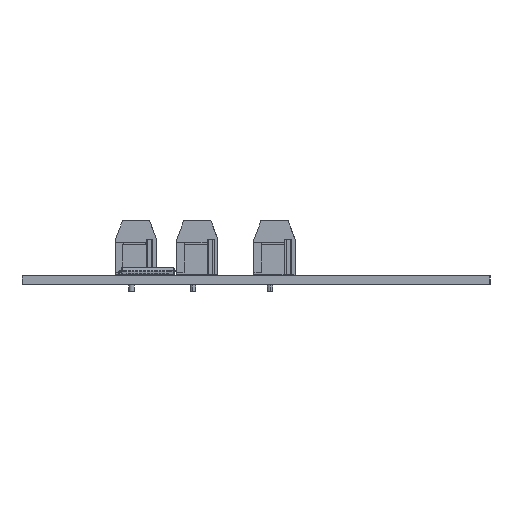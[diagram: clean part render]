
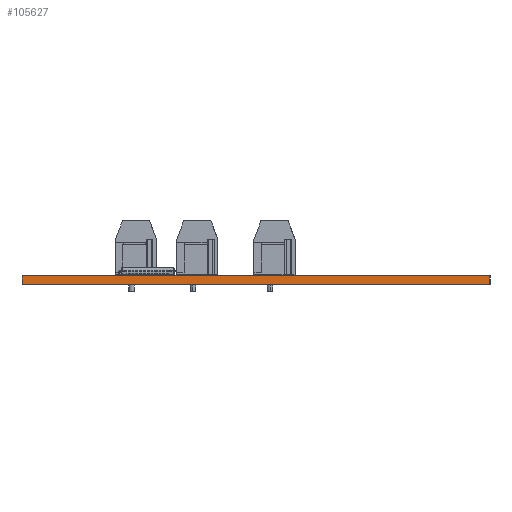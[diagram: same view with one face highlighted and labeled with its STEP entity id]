
A CAD part, left-side view. The second image highlights one B-rep face of the part: STEP entity #105627.
In plain terms, the highlighted planar face has unit normal (-1, 0, 0).
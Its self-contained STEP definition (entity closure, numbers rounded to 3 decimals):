
#104484 = PLANE('',#104485);
#104485 = AXIS2_PLACEMENT_3D('',#104486,#104487,#104488);
#104486 = CARTESIAN_POINT('',(38.1,-152.4,0.));
#104487 = DIRECTION('',(0.,1.,0.));
#104488 = DIRECTION('',(1.,0.,0.));
#104512 = PLANE('',#104513);
#104513 = AXIS2_PLACEMENT_3D('',#104514,#104515,#104516);
#104514 = CARTESIAN_POINT('',(114.3,-109.22,1.6));
#104515 = DIRECTION('',(0.,0.,1.));
#104516 = DIRECTION('',(1.,0.,0.));
#104566 = PLANE('',#104567);
#104567 = AXIS2_PLACEMENT_3D('',#104568,#104569,#104570);
#104568 = CARTESIAN_POINT('',(114.3,-109.22,0.));
#104569 = DIRECTION('',(0.,0.,1.));
#104570 = DIRECTION('',(1.,0.,0.));
#104581 = EDGE_CURVE('',#104582,#104584,#104586,.T.);
#104582 = VERTEX_POINT('',#104583);
#104583 = CARTESIAN_POINT('',(38.1,-152.4,0.));
#104584 = VERTEX_POINT('',#104585);
#104585 = CARTESIAN_POINT('',(38.1,-152.4,1.6));
#104586 = SURFACE_CURVE('',#104587,(#104591,#104598),.PCURVE_S1.);
#104587 = LINE('',#104588,#104589);
#104588 = CARTESIAN_POINT('',(38.1,-152.4,0.));
#104589 = VECTOR('',#104590,1.);
#104590 = DIRECTION('',(0.,0.,1.));
#104591 = PCURVE('',#104484,#104592);
#104592 = DEFINITIONAL_REPRESENTATION('',(#104593),#104597);
#104593 = LINE('',#104594,#104595);
#104594 = CARTESIAN_POINT('',(0.,0.));
#104595 = VECTOR('',#104596,1.);
#104596 = DIRECTION('',(0.,-1.));
#104597 = ( GEOMETRIC_REPRESENTATION_CONTEXT(2) 
PARAMETRIC_REPRESENTATION_CONTEXT() REPRESENTATION_CONTEXT('2D SPACE',''
  ) );
#104598 = PCURVE('',#104599,#104604);
#104599 = PLANE('',#104600);
#104600 = AXIS2_PLACEMENT_3D('',#104601,#104602,#104603);
#104601 = CARTESIAN_POINT('',(38.1,-66.04,0.));
#104602 = DIRECTION('',(1.,0.,0.));
#104603 = DIRECTION('',(0.,-1.,0.));
#104604 = DEFINITIONAL_REPRESENTATION('',(#104605),#104609);
#104605 = LINE('',#104606,#104607);
#104606 = CARTESIAN_POINT('',(86.36,0.));
#104607 = VECTOR('',#104608,1.);
#104608 = DIRECTION('',(0.,-1.));
#104609 = ( GEOMETRIC_REPRESENTATION_CONTEXT(2) 
PARAMETRIC_REPRESENTATION_CONTEXT() REPRESENTATION_CONTEXT('2D SPACE',''
  ) );
#104697 = PLANE('',#104698);
#104698 = AXIS2_PLACEMENT_3D('',#104699,#104700,#104701);
#104699 = CARTESIAN_POINT('',(190.5,-66.04,0.));
#104700 = DIRECTION('',(0.,-1.,0.));
#104701 = DIRECTION('',(-1.,0.,0.));
#104736 = VERTEX_POINT('',#104737);
#104737 = CARTESIAN_POINT('',(38.1,-66.04,0.));
#104758 = EDGE_CURVE('',#104736,#104582,#104759,.T.);
#104759 = SURFACE_CURVE('',#104760,(#104764,#104771),.PCURVE_S1.);
#104760 = LINE('',#104761,#104762);
#104761 = CARTESIAN_POINT('',(38.1,-66.04,0.));
#104762 = VECTOR('',#104763,1.);
#104763 = DIRECTION('',(0.,-1.,0.));
#104764 = PCURVE('',#104566,#104765);
#104765 = DEFINITIONAL_REPRESENTATION('',(#104766),#104770);
#104766 = LINE('',#104767,#104768);
#104767 = CARTESIAN_POINT('',(-76.2,43.18));
#104768 = VECTOR('',#104769,1.);
#104769 = DIRECTION('',(0.,-1.));
#104770 = ( GEOMETRIC_REPRESENTATION_CONTEXT(2) 
PARAMETRIC_REPRESENTATION_CONTEXT() REPRESENTATION_CONTEXT('2D SPACE',''
  ) );
#104771 = PCURVE('',#104599,#104772);
#104772 = DEFINITIONAL_REPRESENTATION('',(#104773),#104777);
#104773 = LINE('',#104774,#104775);
#104774 = CARTESIAN_POINT('',(0.,0.));
#104775 = VECTOR('',#104776,1.);
#104776 = DIRECTION('',(1.,0.));
#104777 = ( GEOMETRIC_REPRESENTATION_CONTEXT(2) 
PARAMETRIC_REPRESENTATION_CONTEXT() REPRESENTATION_CONTEXT('2D SPACE',''
  ) );
#105220 = VERTEX_POINT('',#105221);
#105221 = CARTESIAN_POINT('',(38.1,-66.04,1.6));
#105242 = EDGE_CURVE('',#105220,#104584,#105243,.T.);
#105243 = SURFACE_CURVE('',#105244,(#105248,#105255),.PCURVE_S1.);
#105244 = LINE('',#105245,#105246);
#105245 = CARTESIAN_POINT('',(38.1,-66.04,1.6));
#105246 = VECTOR('',#105247,1.);
#105247 = DIRECTION('',(0.,-1.,0.));
#105248 = PCURVE('',#104512,#105249);
#105249 = DEFINITIONAL_REPRESENTATION('',(#105250),#105254);
#105250 = LINE('',#105251,#105252);
#105251 = CARTESIAN_POINT('',(-76.2,43.18));
#105252 = VECTOR('',#105253,1.);
#105253 = DIRECTION('',(0.,-1.));
#105254 = ( GEOMETRIC_REPRESENTATION_CONTEXT(2) 
PARAMETRIC_REPRESENTATION_CONTEXT() REPRESENTATION_CONTEXT('2D SPACE',''
  ) );
#105255 = PCURVE('',#104599,#105256);
#105256 = DEFINITIONAL_REPRESENTATION('',(#105257),#105261);
#105257 = LINE('',#105258,#105259);
#105258 = CARTESIAN_POINT('',(0.,-1.6));
#105259 = VECTOR('',#105260,1.);
#105260 = DIRECTION('',(1.,0.));
#105261 = ( GEOMETRIC_REPRESENTATION_CONTEXT(2) 
PARAMETRIC_REPRESENTATION_CONTEXT() REPRESENTATION_CONTEXT('2D SPACE',''
  ) );
#105627 = ADVANCED_FACE('',(#105628),#104599,.F.);
#105628 = FACE_BOUND('',#105629,.F.);
#105629 = EDGE_LOOP('',(#105630,#105651,#105652,#105653));
#105630 = ORIENTED_EDGE('',*,*,#105631,.T.);
#105631 = EDGE_CURVE('',#104736,#105220,#105632,.T.);
#105632 = SURFACE_CURVE('',#105633,(#105637,#105644),.PCURVE_S1.);
#105633 = LINE('',#105634,#105635);
#105634 = CARTESIAN_POINT('',(38.1,-66.04,0.));
#105635 = VECTOR('',#105636,1.);
#105636 = DIRECTION('',(0.,0.,1.));
#105637 = PCURVE('',#104599,#105638);
#105638 = DEFINITIONAL_REPRESENTATION('',(#105639),#105643);
#105639 = LINE('',#105640,#105641);
#105640 = CARTESIAN_POINT('',(0.,0.));
#105641 = VECTOR('',#105642,1.);
#105642 = DIRECTION('',(0.,-1.));
#105643 = ( GEOMETRIC_REPRESENTATION_CONTEXT(2) 
PARAMETRIC_REPRESENTATION_CONTEXT() REPRESENTATION_CONTEXT('2D SPACE',''
  ) );
#105644 = PCURVE('',#104697,#105645);
#105645 = DEFINITIONAL_REPRESENTATION('',(#105646),#105650);
#105646 = LINE('',#105647,#105648);
#105647 = CARTESIAN_POINT('',(152.4,0.));
#105648 = VECTOR('',#105649,1.);
#105649 = DIRECTION('',(0.,-1.));
#105650 = ( GEOMETRIC_REPRESENTATION_CONTEXT(2) 
PARAMETRIC_REPRESENTATION_CONTEXT() REPRESENTATION_CONTEXT('2D SPACE',''
  ) );
#105651 = ORIENTED_EDGE('',*,*,#105242,.T.);
#105652 = ORIENTED_EDGE('',*,*,#104581,.F.);
#105653 = ORIENTED_EDGE('',*,*,#104758,.F.);
